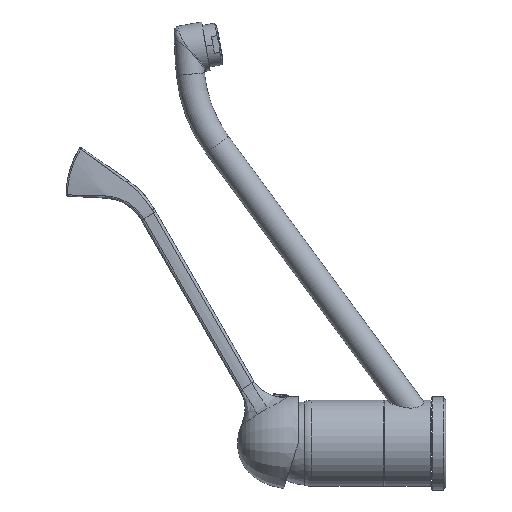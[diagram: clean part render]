
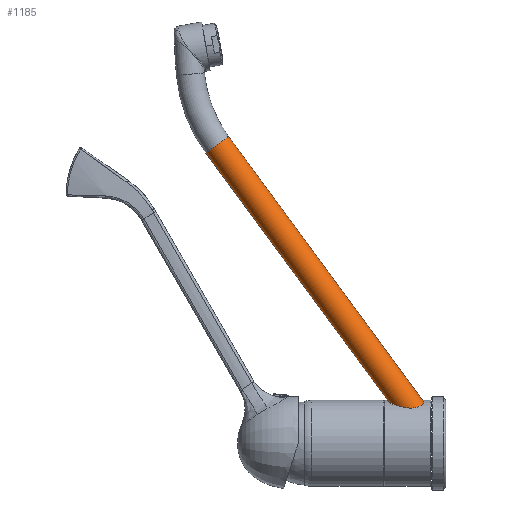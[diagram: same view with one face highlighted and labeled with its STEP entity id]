
A CAD part, left-side view. The second image highlights one B-rep face of the part: STEP entity #1185.
In plain terms, the highlighted cylindrical face has radius 8 mm (diameter 16 mm), a partial arc.
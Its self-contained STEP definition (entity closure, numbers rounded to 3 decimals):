
#499=CARTESIAN_POINT('',(-6.,122.009,169.97));
#500=DIRECTION('',(0.,0.592,0.806));
#501=DIRECTION('',(0.,0.806,-0.592));
#502=AXIS2_PLACEMENT_3D('',#499,#500,#501);
#509=CARTESIAN_POINT('',(-6.,4.595,23.754));
#510=CARTESIAN_POINT('',(-6.528,4.497,23.62));
#511=CARTESIAN_POINT('',(-7.597,4.401,23.313));
#512=CARTESIAN_POINT('',(-9.189,4.587,22.732));
#513=CARTESIAN_POINT('',(-10.665,5.135,22.075));
#514=CARTESIAN_POINT('',(-11.91,6.016,21.423));
#515=CARTESIAN_POINT('',(-12.883,7.202,20.847));
#516=CARTESIAN_POINT('',(-13.549,8.613,20.415));
#517=CARTESIAN_POINT('',(-13.927,10.191,20.157));
#518=CARTESIAN_POINT('',(-14.039,11.881,20.079));
#519=CARTESIAN_POINT('',(-13.916,13.614,20.165));
#520=CARTESIAN_POINT('',(-13.574,15.392,20.398));
#521=CARTESIAN_POINT('',(-13.028,17.158,20.754));
#522=CARTESIAN_POINT('',(-12.272,18.896,21.212));
#523=CARTESIAN_POINT('',(-11.337,20.498,21.73));
#524=CARTESIAN_POINT('',(-10.224,21.93,22.278));
#525=CARTESIAN_POINT('',(-8.968,23.114,22.815));
#526=CARTESIAN_POINT('',(-7.524,24.023,23.334));
#527=CARTESIAN_POINT('',(-6.515,24.358,23.624));
#528=CARTESIAN_POINT('',(-6.,24.453,23.754));
#530=DIRECTION('',(0.,0.592,0.806));
#531=VECTOR('',#530,175.591);
#532=CARTESIAN_POINT('',(-6.,24.453,23.754));
#533=LINE('',#532,#531);
#579=DIRECTION('',(0.,0.592,0.806));
#580=VECTOR('',#579,187.353);
#581=CARTESIAN_POINT('',(-6.,4.595,23.754));
#582=LINE('',#581,#580);
#625=CARTESIAN_POINT('',(-6.,128.455,165.231));
#626=VERTEX_POINT('',#625);
#627=CARTESIAN_POINT('',(-6.,115.563,174.708));
#628=VERTEX_POINT('',#627);
#643=VERTEX_POINT('',#528);
#644=VERTEX_POINT('',#509);
#1171=CARTESIAN_POINT('',(-6.,0.546,4.738));
#1172=DIRECTION('',(0.,0.592,0.806));
#1173=DIRECTION('',(0.,-0.806,0.592));
#1174=AXIS2_PLACEMENT_3D('',#1171,#1172,#1173);
#1175=CYLINDRICAL_SURFACE('',#1174,8.);
#1177=ORIENTED_EDGE('',*,*,#1176,.T.);
#1179=ORIENTED_EDGE('',*,*,#1178,.T.);
#1180=ORIENTED_EDGE('',*,*,#1162,.T.);
#1182=ORIENTED_EDGE('',*,*,#1181,.F.);
#1183=EDGE_LOOP('',(#1177,#1179,#1180,#1182));
#1184=FACE_OUTER_BOUND('',#1183,.F.);
#1185=ADVANCED_FACE('',(#1184),#1175,.T.);
#503=CIRCLE('',#502,8.);
#529=B_SPLINE_CURVE_WITH_KNOTS('',3,(#509,#510,#511,#512,#513,#514,#515,#516,
#517,#518,#519,#520,#521,#522,#523,#524,#525,#526,#527,#528),.UNSPECIFIED.,.F.,
.F.,(4,1,1,1,1,1,1,1,1,1,1,1,1,1,1,1,1,4),(0.,0.059,
0.118,0.176,0.235,0.294,
0.353,0.412,0.471,0.529,
0.588,0.647,0.706,0.765,
0.824,0.882,0.941,1.),.UNSPECIFIED.);
#1162=EDGE_CURVE('',#626,#628,#503,.T.);
#1176=EDGE_CURVE('',#644,#643,#529,.T.);
#1178=EDGE_CURVE('',#643,#626,#533,.T.);
#1181=EDGE_CURVE('',#644,#628,#582,.T.);
